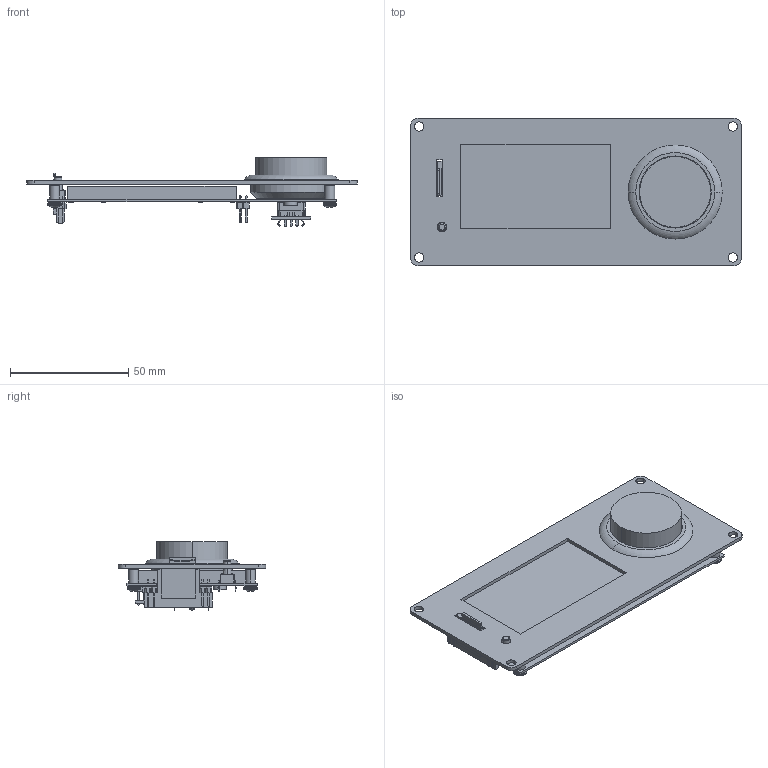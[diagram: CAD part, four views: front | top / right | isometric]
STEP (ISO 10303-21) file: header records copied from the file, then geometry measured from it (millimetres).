
FILE_DESCRIPTION (( 'STEP AP214' ), '1' );
FILE_NAME ('User Library-Viki2 assembly.STEP', '2016-07-03T01:21:22', ( 'Windows User' ), ( '' ), 'SwSTEP 2.0', 'SolidWorks 2016', '' );
FILE_SCHEMA (( 'AUTOMOTIVE_DESIGN' ));
Length unit declared in the file: centimetre
Products named in the file (1): User Library-Viki2 assembly
Bounding box: 139.71 x 62.5 x 29.06 mm (x, y, z)
Volume: 49796.9 mm3; surface area: 39327 mm2
Topology: 10 solids, 10 shells, 2009 faces, 5812 edges, 3734 vertices
Faces by surface type: plane 1159, cylinder 680, cone 106, torus 29, bspline 23, sphere 12
Entity records: 134692 total; most frequent: CARTESIAN_POINT 69022, ORIENTED_EDGE 11600, DIRECTION 10654, EDGE_CURVE 5800, VECTOR 3930, LINE 3930, VERTEX_POINT 3734, AXIS2_PLACEMENT_3D 3362
